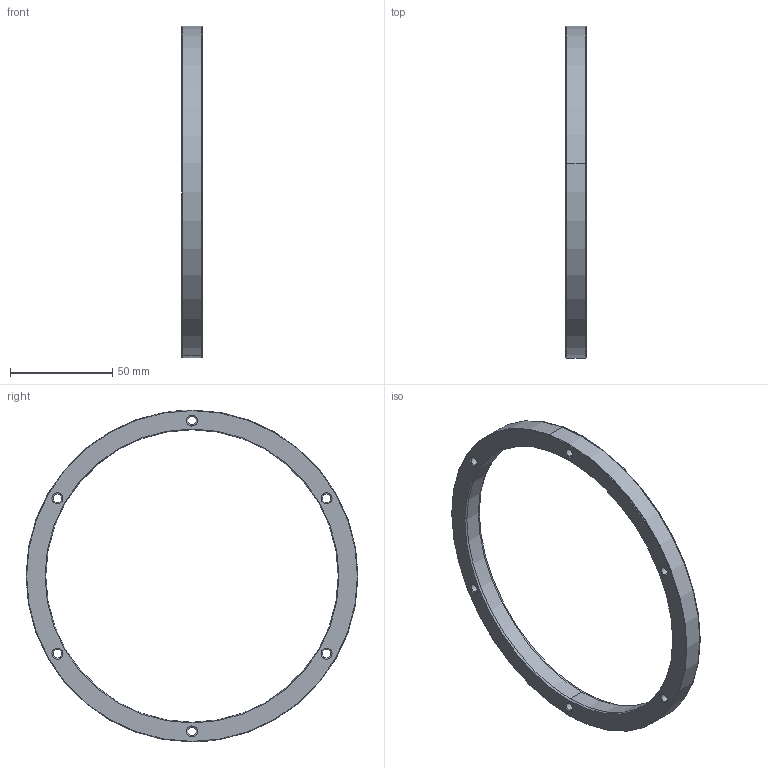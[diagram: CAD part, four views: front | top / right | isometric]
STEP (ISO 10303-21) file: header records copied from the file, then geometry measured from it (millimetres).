
FILE_DESCRIPTION (( 'STEP AP214' ), '1' );
FILE_NAME ('MR162U143.STEP', '2021-09-21T13:49:40', ( '' ), ( '' ), 'SwSTEP 2.0', 'SolidWorks 2020', '' );
FILE_SCHEMA (( 'AUTOMOTIVE_DESIGN' ));
Length unit declared in the file: millimetre
Products named in the file (1): MR162U143
Bounding box: 10 x 162.35 x 162.35 mm (x, y, z)
Volume: 45348.1 mm3; surface area: 19111.1 mm2
Topology: 1 solids, 1 shells, 462 faces, 1217 edges, 802 vertices
Faces by surface type: plane 251, bspline 147, cylinder 32, cone 28, torus 4
Entity records: 26047 total; most frequent: CARTESIAN_POINT 10437, ORIENTED_EDGE 2434, DIRECTION 1659, EDGE_CURVE 1217, LINE 819, VECTOR 819, VERTEX_POINT 802, EDGE_LOOP 521
